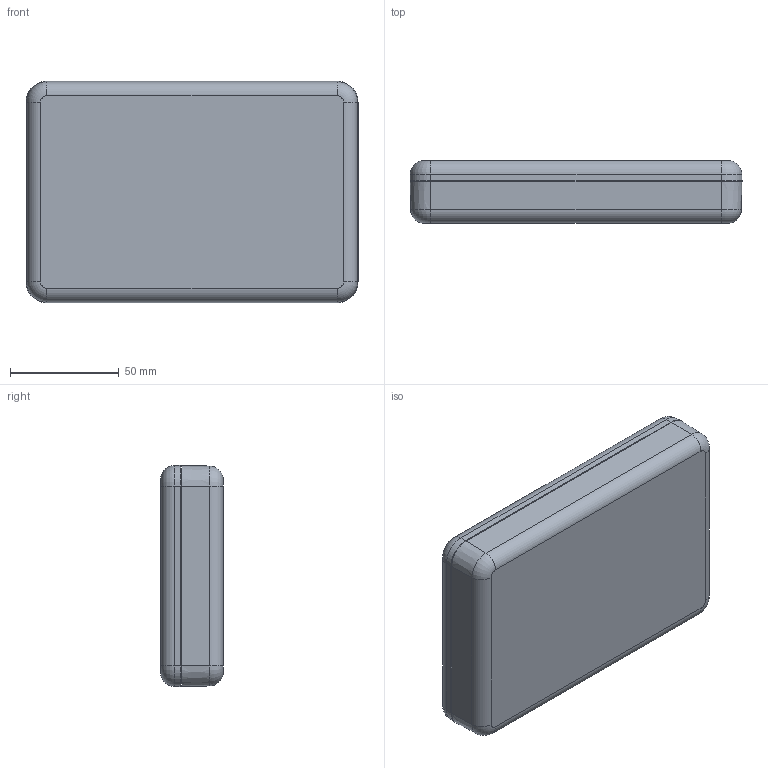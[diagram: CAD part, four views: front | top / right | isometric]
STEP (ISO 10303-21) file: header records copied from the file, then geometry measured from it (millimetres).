
FILE_DESCRIPTION (( 'STEP AP214' ), '1' );
FILE_NAME ('SL-64PXXR.STEP', '2023-12-20T17:10:35', ( '' ), ( '' ), 'SwSTEP 2.0', 'SolidWorks 2023', '' );
FILE_SCHEMA (( 'AUTOMOTIVE_DESIGN' ));
Length unit declared in the file: inch
Products named in the file (4): SL-64C_SL-64C-R; SCREWS-HL5-8-BR_default; SL-64PXXR; SL-64B_SL-64BPXX
Assembly tree (6 placements, depth 2):
  SL-64PXXR
    SL-64B_SL-64BPXX
    SL-64C_SL-64C-R
    SCREWS-HL5-8-BR_default  x4
Bounding box: 152.55 x 28.7 x 101.7 mm (x, y, z)
Volume: 95712.4 mm3; surface area: 87546.5 mm2
Topology: 6 solids, 6 shells, 421 faces, 1067 edges, 671 vertices
Faces by surface type: plane 149, cylinder 84, bspline 80, cone 72, torus 32, sphere 4
Full cylindrical faces by diameter (mm): 1.651 x44
Entity records: 10884 total; most frequent: CARTESIAN_POINT 5003, ORIENTED_EDGE 1222, DIRECTION 1135, EDGE_CURVE 611, AXIS2_PLACEMENT_3D 474, VERTEX_POINT 386, EDGE_LOOP 323, FACE_OUTER_BOUND 275
